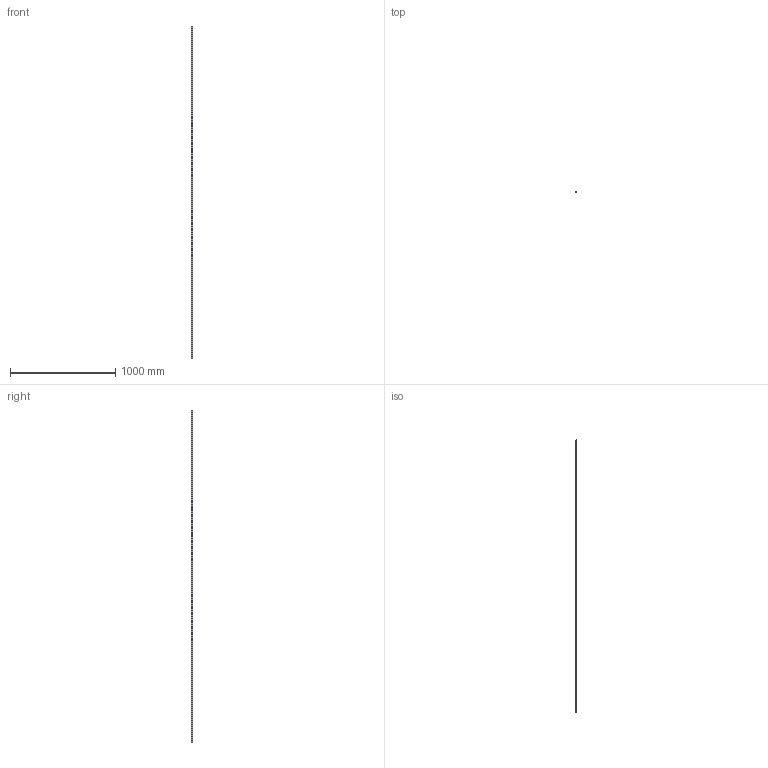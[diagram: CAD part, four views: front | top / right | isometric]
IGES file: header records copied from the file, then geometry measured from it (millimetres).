
Start section: SolidWorks IGES file using analytic representation for surfaces
Global section: file name: C:\Users\IanO\Desktop\L1016_v2\L1016.BL15_v2\L1016.BL15_v2_20190611_IGES\L1016.BL15-3160.igs; native system: SolidWorks 2017; preprocessor: SolidWorks 2017; author: IanO; date: 190612.123516; units: millimetre
Bounding box: 15 x 13 x 3160 mm (x, y, z)
Surface area: 192965.3 mm2 (no closed solid volume)
Topology: 0 solids, 0 shells, 291 faces, 7784 edges, 7784 vertices
Faces by surface type: revolution 216, bspline 75
